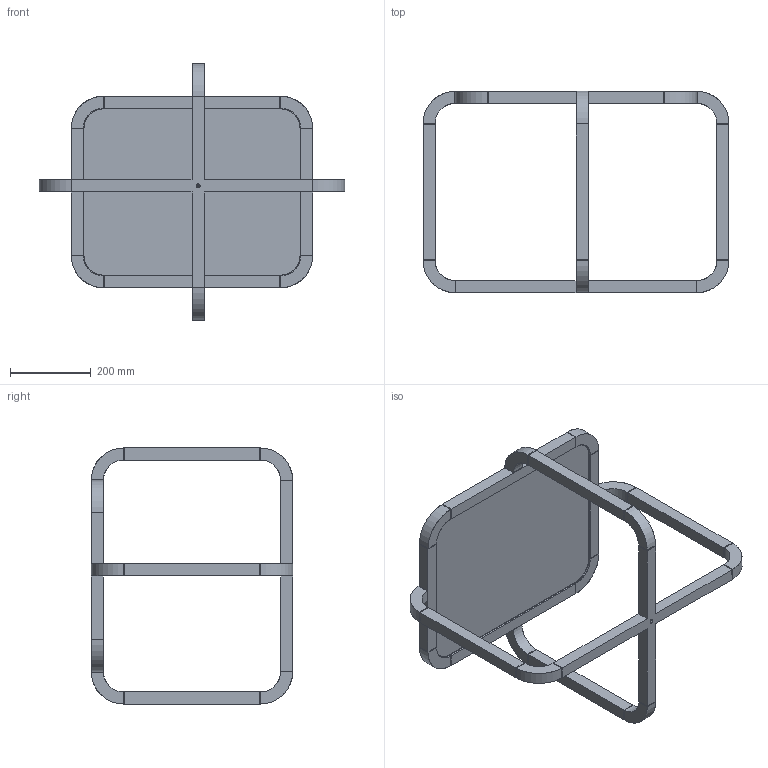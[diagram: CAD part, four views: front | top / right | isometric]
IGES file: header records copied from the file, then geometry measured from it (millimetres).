
Start section: SolidWorks IGES file using analytic representation for surfaces
Global section: file name: C:\Users\Utilizador\Desktop\176M Alpha Side Table_va\176M Alpha Side Table _3D IGS.IGS; native system: SolidWorks 2022; preprocessor: SolidWorks 2022; author: Utilizador; date: 221104.160632; units: millimetre
Bounding box: 760 x 500 x 636 mm (x, y, z)
Surface area: 1074892.6 mm2 (no closed solid volume)
Topology: 0 solids, 0 shells, 304 faces, 3168 edges, 3168 vertices
Faces by surface type: bspline 240, revolution 64
